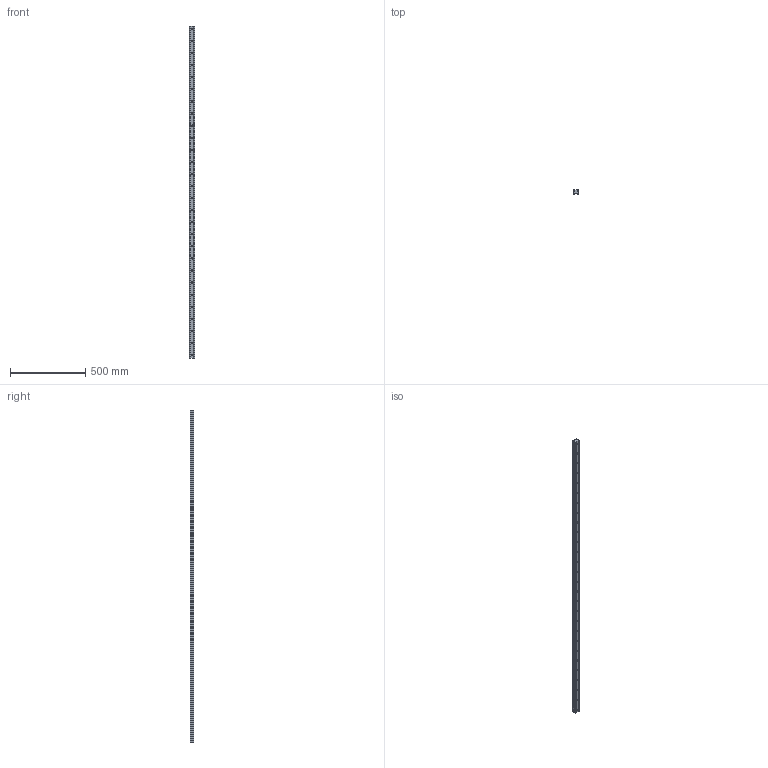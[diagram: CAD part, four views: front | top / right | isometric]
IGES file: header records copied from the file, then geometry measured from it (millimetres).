
Start section: SolidWorks IGES file using analytic representation for surfaces
Global section: file name: C:\Users\IanO\Desktop\Temp File\GENERAL\L1016_v2\L1016.RF35_v2\L1016.RF35_v2_20190612_IGES\L1016.RF35-2200.igs; native system: SolidWorks 2017; preprocessor: SolidWorks 2017; author: IanO; date: 190613.172950; units: millimetre
Bounding box: 34 x 26 x 2200 mm (x, y, z)
Surface area: 287052.7 mm2 (no closed solid volume)
Topology: 0 solids, 0 shells, 222 faces, 3528 edges, 3472 vertices
Faces by surface type: revolution 172, bspline 50
